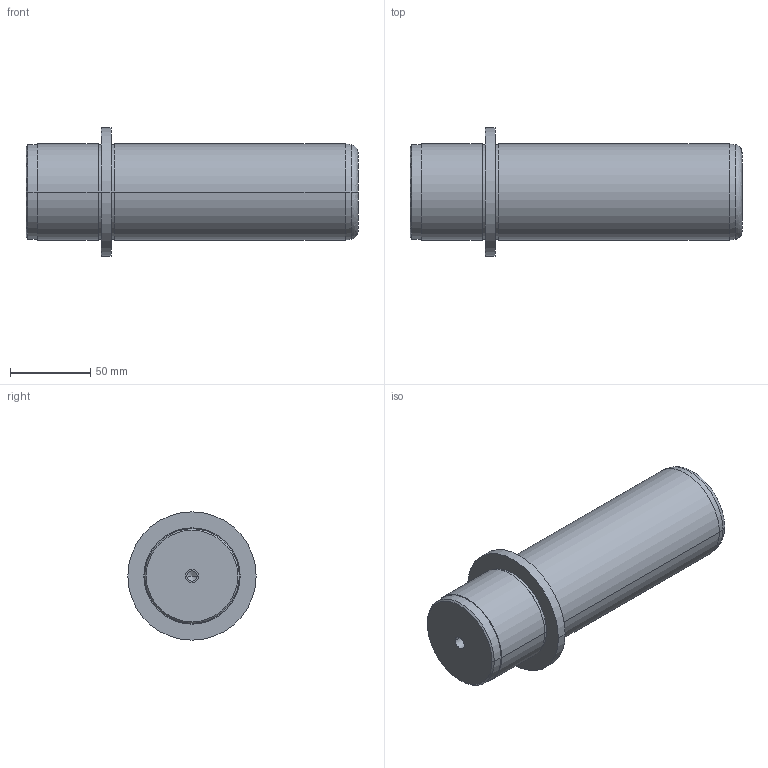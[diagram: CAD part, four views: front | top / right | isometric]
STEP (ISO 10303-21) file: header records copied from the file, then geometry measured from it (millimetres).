
FILE_DESCRIPTION( ( 'STEP AP203' ), '1' );
FILE_NAME( 'C:/Projects/D00 - 60x160x47.step', '2003-01-02T07:25:35', ( ' ' ), ( ' ' ), 'XStep 1.0', ' ', ' ' );
FILE_SCHEMA( ( 'CONFIG_CONTROL_DESIGN' ) );
Length unit declared in the file: metre
Products named in the file (1): 1
Bounding box: 207 x 80 x 80 mm (x, y, z)
Volume: 593666.3 mm3; surface area: 50346 mm2
Topology: 1 solids, 1 shells, 39 faces, 78 edges, 48 vertices
Faces by surface type: revolution 28, bspline 11
Entity records: 1137 total; most frequent: CARTESIAN_POINT 277, DIRECTION 154, ORIENTED_EDGE 152, EDGE_CURVE 76, AXIS2_PLACEMENT_3D 49, EDGE_LOOP 48, VERTEX_POINT 48, CIRCLE 48
